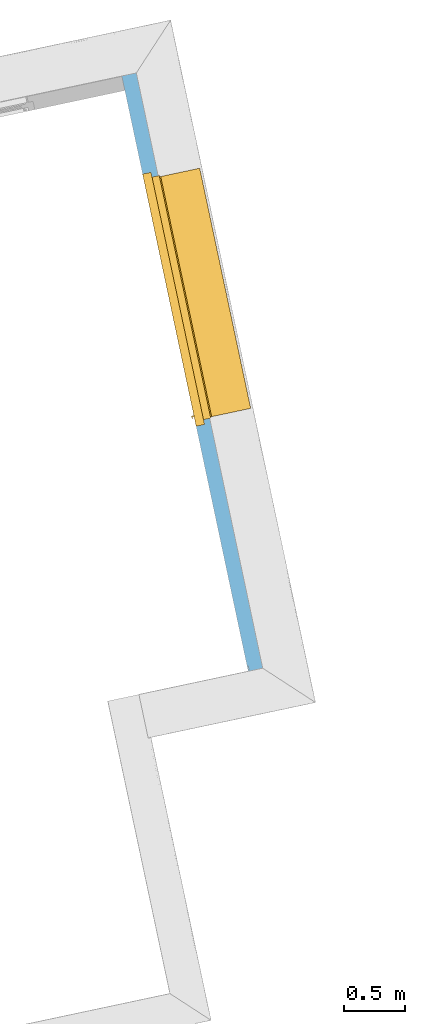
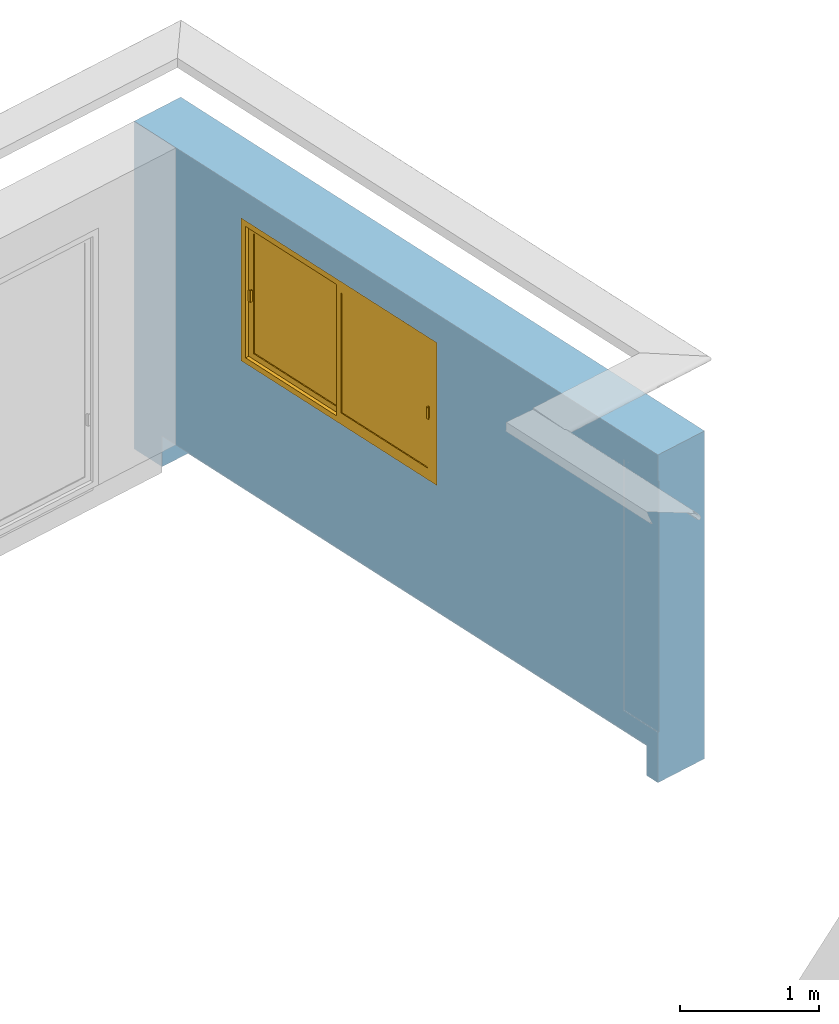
"""IFC2X3 building model written with IfcOpenShell, lengths in centimetres."""

from ifc_helpers import new_model, entity, si_unit, converted_unit, derived_unit, direction, frame, frame_2d, origin, place, context, subcontext, project, spatial, rectangle, extrude, faceted_brep, source, transform, mapped, material, material_list, layer, layer_set, layer_usage, type_object, type_shapes, element, fill, save


model = new_model("IFC2X3")

# Units and contexts
model_context = context("Model", 3, precision=0.001, world=origin(), true_north=direction((6.12303176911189e-17, 1.0)))
body_context = subcontext(model_context, "Body", "Model", "MODEL_VIEW")
ifc_project = project(units=[si_unit("LENGTHUNIT", "METRE", prefix="CENTI"), si_unit("AREAUNIT", "SQUARE_METRE"), si_unit("VOLUMEUNIT", "CUBIC_METRE"), converted_unit("PLANEANGLEUNIT", "DEGREE", entity("IfcRatioMeasure", 0.0174532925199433), si_unit("PLANEANGLEUNIT", "RADIAN"), dimensions=[0, 0, 0, 0, 0, 0, 0]), si_unit("MASSUNIT", "GRAM", prefix="KILO"), derived_unit("MASSDENSITYUNIT", [(si_unit("MASSUNIT", "GRAM", prefix="KILO"), 1), (si_unit("LENGTHUNIT", "METRE"), -3)]), derived_unit("IONCONCENTRATIONUNIT", [(si_unit("MASSUNIT", "GRAM", prefix="KILO"), 1), (si_unit("LENGTHUNIT", "METRE"), -3)]), derived_unit("MOMENTOFINERTIAUNIT", [(si_unit("LENGTHUNIT", "METRE"), 4)]), si_unit("TIMEUNIT", "SECOND"), si_unit("FREQUENCYUNIT", "HERTZ"), si_unit("THERMODYNAMICTEMPERATUREUNIT", "DEGREE_CELSIUS"), derived_unit("THERMALTRANSMITTANCEUNIT", [(si_unit("MASSUNIT", "GRAM", prefix="KILO"), 1), (si_unit("THERMODYNAMICTEMPERATUREUNIT", "KELVIN"), -1), (si_unit("TIMEUNIT", "SECOND"), -3)]), derived_unit("THERMALCONDUCTANCEUNIT", [(si_unit("MASSUNIT", "GRAM", prefix="KILO"), 1), (si_unit("THERMODYNAMICTEMPERATUREUNIT", "KELVIN"), -1), (si_unit("TIMEUNIT", "SECOND"), -3), (si_unit("LENGTHUNIT", "METRE"), 1)]), derived_unit("VOLUMETRICFLOWRATEUNIT", [(si_unit("LENGTHUNIT", "METRE"), 3), (si_unit("TIMEUNIT", "SECOND"), -1)]), derived_unit("MASSFLOWRATEUNIT", [(si_unit("MASSUNIT", "GRAM", prefix="KILO"), 1), (si_unit("TIMEUNIT", "SECOND"), -1)]), derived_unit("ROTATIONALFREQUENCYUNIT", [(si_unit("TIMEUNIT", "SECOND"), -1)]), si_unit("ELECTRICCURRENTUNIT", "AMPERE"), si_unit("ELECTRICVOLTAGEUNIT", "VOLT"), si_unit("POWERUNIT", "WATT"), si_unit("FORCEUNIT", "NEWTON", prefix="KILO"), si_unit("ILLUMINANCEUNIT", "LUX"), si_unit("LUMINOUSFLUXUNIT", "LUMEN"), si_unit("LUMINOUSINTENSITYUNIT", "CANDELA"), derived_unit("USERDEFINED", [(si_unit("MASSUNIT", "GRAM", prefix="KILO"), -1), (si_unit("LENGTHUNIT", "METRE"), -2), (si_unit("TIMEUNIT", "SECOND"), 3), (si_unit("LUMINOUSFLUXUNIT", "LUMEN"), 1)]), derived_unit("USERDEFINED", [(si_unit("MASSUNIT", "GRAM", prefix="KILO"), 1), (si_unit("TIMEUNIT", "SECOND"), -3), (si_unit("LENGTHUNIT", "METRE"), 3), (si_unit("ELECTRICCURRENTUNIT", "AMPERE"), -2)]), derived_unit("SOUNDPOWERUNIT", [(si_unit("MASSUNIT", "GRAM", prefix="KILO"), 1), (si_unit("TIMEUNIT", "SECOND"), -3), (si_unit("LENGTHUNIT", "METRE"), 2)]), derived_unit("SOUNDPRESSUREUNIT", [(si_unit("MASSUNIT", "GRAM", prefix="KILO"), 1), (si_unit("LENGTHUNIT", "METRE"), -1), (si_unit("TIMEUNIT", "SECOND"), -2)]), derived_unit("LINEARVELOCITYUNIT", [(si_unit("LENGTHUNIT", "METRE"), 1), (si_unit("TIMEUNIT", "SECOND"), -1)]), si_unit("PRESSUREUNIT", "PASCAL"), derived_unit("USERDEFINED", [(si_unit("MASSUNIT", "GRAM", prefix="KILO"), 1), (si_unit("LENGTHUNIT", "METRE"), -2), (si_unit("TIMEUNIT", "SECOND"), -2)]), derived_unit("LINEARFORCEUNIT", [(si_unit("MASSUNIT", "GRAM", prefix="KILO"), 1), (si_unit("TIMEUNIT", "SECOND"), -2)]), derived_unit("PLANARFORCEUNIT", [(si_unit("MASSUNIT", "GRAM", prefix="KILO"), 1), (si_unit("LENGTHUNIT", "METRE"), -1), (si_unit("TIMEUNIT", "SECOND"), -2)]), derived_unit("SPECIFICHEATCAPACITYUNIT", [(si_unit("THERMODYNAMICTEMPERATUREUNIT", "KELVIN"), -1), (si_unit("LENGTHUNIT", "METRE"), 2), (si_unit("TIMEUNIT", "SECOND"), -2)]), derived_unit("HEATINGVALUEUNIT", [(si_unit("LENGTHUNIT", "METRE"), 2), (si_unit("TIMEUNIT", "SECOND"), -2)]), derived_unit("VAPORPERMEABILITYUNIT", [(si_unit("LENGTHUNIT", "METRE"), -1), (si_unit("TIMEUNIT", "SECOND"), 1)]), derived_unit("DYNAMICVISCOSITYUNIT", [(si_unit("MASSUNIT", "GRAM", prefix="KILO"), 1), (si_unit("TIMEUNIT", "SECOND"), -1), (si_unit("LENGTHUNIT", "METRE"), -1)]), derived_unit("THERMALEXPANSIONCOEFFICIENTUNIT", [(si_unit("THERMODYNAMICTEMPERATUREUNIT", "KELVIN"), -1)]), derived_unit("MODULUSOFELASTICITYUNIT", [(si_unit("MASSUNIT", "GRAM", prefix="KILO"), 1), (si_unit("LENGTHUNIT", "METRE"), -1), (si_unit("TIMEUNIT", "SECOND"), -2)]), derived_unit("ISOTHERMALMOISTURECAPACITYUNIT", [(si_unit("LENGTHUNIT", "METRE"), 3), (si_unit("MASSUNIT", "GRAM", prefix="KILO"), -1)]), derived_unit("MOISTUREDIFFUSIVITYUNIT", [(si_unit("TIMEUNIT", "SECOND"), -1), (si_unit("LENGTHUNIT", "METRE"), 2)])], contexts=[model_context])

# Site, building, storey
site_placement = place(None, frame((14083.8920177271, -6853.25409548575, 6900.0), z_axis=(0.0, 0.0, 1.0), x_axis=(0.978188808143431, 0.207717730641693, 0.0)))
site = spatial("IfcSite", under=ifc_project, at=site_placement, Name="Surface", CompositionType="ELEMENT")
building_placement = place(site_placement, origin())
building = spatial("IfcBuilding", under=site, at=building_placement, CompositionType="ELEMENT")
storey_1_placement = place(building_placement, frame((0.0, 0.0, -17.0)))
storey_1 = spatial("IfcBuildingStorey", under=building, at=storey_1_placement, Name="Rez de chaussée (SD)", CompositionType="ELEMENT", Elevation=-16.9999999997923)

# Wall, openings
ifc_material_1 = material(Name="__ PIERRE______________________TEST")
ifc_layer_1 = layer(ifc_material_1, 10.0)
ifc_material_2 = material(Name="__ BETON_parpaings")
ifc_layer_2 = layer(ifc_material_2, 20.0)
ifc_material_3 = material(Name="__ ISOLANT (pat 1)")
ifc_layer_3 = layer(ifc_material_3, 13.0)
ifc_material_4 = material(Name="__ ENDUIT_Blanc")
ifc_layer_4 = layer(ifc_material_4, 2.0)
ifc_layer_set = layer_set([ifc_layer_1, ifc_layer_2, ifc_layer_3, ifc_layer_4], Name="Mur de base:*Mur (45) maçonné isolé + parement pierre")
ifc_layer_usage = layer_usage(ifc_layer_set, "AXIS2", "NEGATIVE", 22.5)
wall_type = type_object("IfcWallType", Name="Mur de base:*Mur (45) maçonné isolé + parement pierre", PredefinedType="STANDARD", material=ifc_layer_set)
wall_placement = place(storey_1_placement, frame((-5837.31321908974, 15722.1673447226, -10.0), z_axis=(0.0, 0.0, 1.0), x_axis=(0.0, -1.0, 0.0)))
wall = element("IfcWallStandardCase", 1, at=wall_placement, inside=storey_1, type_object=wall_type, material=ifc_layer_usage, Name="Mur de base:*Mur (45) maçonné isolé + parement pierre", ObjectType="Mur de base:*Mur (45) maçonné isolé + parement pierre", context=body_context, shape_type="SweptSolid", body=[
    extrude(rectangle(XDim=561.499999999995, YDim=45.0000000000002, at=frame_2d((280.749999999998, 7.99360577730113e-14), x_axis=(-1.0, 0.0))), origin(), (0.0, 0.0, 1.0), 286.999999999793),
])
opening_1_placement = place(storey_1_placement, frame((-5837.31321908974, 15722.1673447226, -10.0), z_axis=(0.0, 0.0, 1.0), x_axis=(0.0, -1.0, 0.0)))
element("IfcOpeningElement", 2, at=opening_1_placement, cuts=wall, Name="Mur de base:*Mur (45) maçonné isolé + parement pierre:1", ObjectType="Opening", context=body_context, shape_type="SweptSolid", body=[
    extrude(rectangle(XDim=27.0, YDim=24.9999999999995, at=frame_2d((0.0, 0.0), x_axis=(0.0, 1.0))), frame((549.499999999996, -10.0, 13.5), z_axis=(-1.0, 0.0, 0.0), x_axis=(0.0, 1.0, 0.0)), (0.0, 0.0, 1.0), 519.499999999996),
])
opening_2_placement = place(wall_placement, frame((564.0, -101.499999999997, 38.3850445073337)))
element("IfcOpeningElement", 3, at=opening_2_placement, cuts=wall, Name="Mur de base:*Mur (45) maçonné isolé + parement pierre", ObjectType="Opening", context=body_context, shape_type="Brep", body=[
    faceted_brep([(-39.5000000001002, 0.0, 225.614955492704), (-39.5000000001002, 80.0, 225.614955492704), (-39.5000000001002, 80.0, 5.61495549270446), (-39.5000000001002, 0.0, 5.61495549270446), (-2.50000000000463, 0.0, 225.614955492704), (-2.50000000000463, 0.0, 5.61495549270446), (-2.50000000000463, 79.8999999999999, 5.61495549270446), (-2.50000000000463, 80.0, 5.61495549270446), (-2.50000000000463, 80.0, 225.614955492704), (-34.2000000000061, 0.0, 225.614955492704), (-34.2000000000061, 0.0, 225.714955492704), (-34.3000000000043, 0.0, 225.714955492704), (-34.3000000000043, 0.0, 225.614955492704), (-33.0, 80.0, 5.61495549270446), (-33.0, 79.8999999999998, 5.61495549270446), (-34.3000000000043, 80.0, 225.614955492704), (-34.3000000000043, 80.0, 225.714955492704), (-34.2000000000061, 80.0, 225.714955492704), (-34.2000000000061, 80.0, 225.614955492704), (-14.3000000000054, 80.0, 225.614955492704), (-14.3000000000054, 80.0, 225.714955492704), (-14.2000000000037, 80.0, 225.714955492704), (-14.2000000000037, 80.0, 225.614955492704), (0.0, 80.0, 5.61495549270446), (0.0, 80.0, 0.0), (-30.502511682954, 80.0, 2.11559678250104), (-33.0, 80.0, 2.11559678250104), (-30.5025116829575, 79.8999999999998, 2.11559678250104), (0.0, 79.8999999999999, 0.0), (0.0, 79.8999999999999, 5.61495549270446), (-33.0, 79.8999999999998, 2.11559678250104), (-14.3000000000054, 79.8999999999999, 225.714955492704), (-14.3000000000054, 79.8999999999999, 225.614955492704), (-14.2000000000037, 79.8999999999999, 225.614955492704), (-14.2000000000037, 79.8999999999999, 225.714955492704)], [[[0, 1, 2, 3]], [[4, 5, 6, 7, 8]], [[0, 3, 5, 4, 9, 10, 11, 12]], [[3, 2, 13, 14, 6, 5]], [[2, 1, 15, 16, 17, 18, 19, 20, 21, 22, 8, 7, 23, 24, 25, 26, 13]], [[1, 0, 12, 15]], [[27, 28, 29, 6, 14, 30]], [[27, 30, 26, 25]], [[30, 14, 13, 26]], [[29, 23, 7, 6]], [[29, 28, 24, 23]], [[28, 27, 25, 24]], [[31, 32, 33, 34]], [[31, 34, 21, 20]], [[34, 33, 22, 21]], [[32, 31, 20, 19]], [[12, 11, 16, 15]], [[11, 10, 17, 16]], [[10, 9, 18, 17]], [[4, 8, 22, 33, 32, 19, 18, 9]]]),
])
opening_3_placement = place(wall_placement, frame((324.534892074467, -50.0, 129.036089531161), z_axis=(0.0, 0.0, 1.0), x_axis=(0.0, 1.0, 0.0)))
opening_3 = element("IfcOpeningElement", 4, at=opening_3_placement, cuts=wall, Name="Mur de base:*Mur (45) maçonné isolé + parement pierre", ObjectType="Opening", context=body_context, shape_type="Brep", body=[
    faceted_brep([(0.0, 205.0, 7.96391046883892), (0.0, 5.0, 7.96391046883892), (0.0, 5.0, 127.963910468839), (0.0, 205.0, 127.963910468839), (100.0, 205.0, 127.963910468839), (40.5000000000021, 205.0, 127.963910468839), (40.5000000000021, 5.0, 127.963910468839), (100.0, 5.0, 127.963910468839), (27.5000000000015, 205.0, 7.96391046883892), (27.5000000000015, 205.0, 127.963910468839), (27.5000000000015, 5.0, 127.963910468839), (27.5000000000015, 5.0, 7.96391046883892), (27.5000000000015, 0.0, 7.96391046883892), (27.5000000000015, 0.0, 132.96391046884), (27.5000000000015, 210.0, 132.96391046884), (27.5000000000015, 210.0, 7.96391046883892), (38.5000000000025, 205.0, 7.96391046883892), (40.5000000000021, 205.0, 7.96391046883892), (100.0, 205.0, 0.0), (38.5000000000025, 205.0, 6.46391046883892), (34.5000000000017, 210.0, 7.96391046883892), (34.5000000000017, 206.0, 7.96391046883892), (40.5000000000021, 206.0, 7.96391046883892), (38.5000000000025, 5.0, 7.96391046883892), (40.5000000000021, 5.0, 7.96391046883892), (40.5000000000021, 4.0, 7.96391046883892), (34.5000000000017, 4.0, 7.96391046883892), (34.5000000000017, 0.0, 7.96391046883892), (100.0, 5.0, 0.0), (38.5000000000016, 5.0, 6.46391046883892), (34.5000000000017, 210.0, 132.96391046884), (34.5000000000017, 0.0, 132.96391046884), (34.5000000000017, 4.0, 128.963910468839), (34.5000000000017, 206.0, 128.963910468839), (40.5000000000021, 206.0, 128.963910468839), (40.5000000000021, 4.0, 128.963910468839)], [[[0, 1, 2, 3]], [[4, 5, 6, 7]], [[8, 9, 10, 11, 12, 13, 14, 15]], [[16, 17, 5, 4, 18, 19]], [[1, 11, 10, 2]], [[0, 8, 15, 20, 21, 22, 17, 16, 23, 24, 25, 26, 27, 12, 11, 1]], [[4, 7, 28, 18]], [[18, 28, 29, 19]], [[19, 29, 23, 16]], [[15, 14, 30, 20]], [[20, 30, 31, 27, 26, 32, 33, 21]], [[21, 33, 34, 22]], [[22, 34, 35, 25, 24, 6, 5, 17]], [[14, 13, 31, 30]], [[32, 35, 34, 33]], [[31, 13, 12, 27]], [[26, 25, 35, 32]], [[7, 6, 24, 23, 29, 28]], [[3, 9, 8, 0]], [[2, 10, 9, 3]]]),
])

# Storey
storey_2_placement = place(building_placement, origin())
storey_2 = spatial("IfcBuildingStorey", under=building, at=storey_2_placement, Name="_Rez de chaussée Séjour", CompositionType="ELEMENT", Elevation=2.07727662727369e-10)

# Window
ifc_material_5 = material(Name="Fenêtre - Poignée")
ifc_material_6 = material(Name="Fenêtre - Appui")
ifc_material_7 = material(Name="Fenêtre - Vitrage")
ifc_material_8 = material(Name="__ METAL_gris foncé (menuiseries acier)______________________TEST")
ifc_material_9 = material(Name="Fenêtre - Cadre")
ifc_material_list = material_list([ifc_material_5, ifc_material_6, ifc_material_7, ifc_material_8, ifc_material_9])
window_style = type_object("IfcWindowStyle", Name="2 Vantaux coulissants - Droits:c 200x120 +VR", ConstructionType="NOTDEFINED", OperationType="DOUBLE_PANEL_VERTICAL", ParameterTakesPrecedence=False, Sizeable=False, material=ifc_material_list)
shared_shape = source(origin(), body_context, "Body", "Brep", [
    faceted_brep([(8.75313182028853, -71.4999999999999, 62.9639104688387), (7.09522174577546, -71.4999999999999, 62.9639104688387), (7.09522174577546, -71.0, 62.9639104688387), (8.0, -71.0, 62.9639104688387), (8.0, -69.4999999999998, 62.9639104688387), (9.0, -69.4999999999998, 62.9639104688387), (9.0, -71.2531318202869, 62.9639104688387), (8.0, -69.4999999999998, 72.9639104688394), (8.0, -71.0, 72.9639104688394), (7.09522174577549, -71.0, 72.9639104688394), (7.09522174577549, -71.4999999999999, 72.9639104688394), (8.75313182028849, -71.4999999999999, 72.9639104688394), (9.0, -71.2531318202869, 72.9639104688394), (9.0, -69.4999999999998, 72.9639104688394), (6.50000000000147, -71.0, 63.559132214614), (6.50000000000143, -71.0, 72.3686887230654), (6.67433641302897, -71.0, 72.7895740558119), (6.67433641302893, -71.0, 63.1382468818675), (6.50000000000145, -71.4999999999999, 72.3686887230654), (6.50000000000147, -71.4999999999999, 63.559132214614), (6.67433641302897, -71.4999999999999, 72.7895740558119), (6.67433641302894, -71.4999999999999, 63.1382468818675)], [[[0, 1, 2, 3, 4, 5, 6]], [[7, 8, 9, 10, 11, 12, 13]], [[12, 6, 5, 13]], [[13, 5, 4, 7]], [[7, 4, 3, 8]], [[14, 15, 16, 9, 8, 3, 2, 17]], [[18, 15, 14, 19]], [[1, 0, 11, 10, 20, 18, 19, 21]], [[11, 0, 6, 12]], [[9, 16, 20, 10]], [[15, 18, 20, 16]], [[14, 17, 21, 19]], [[2, 1, 21, 17]]]),
    faceted_brep([(202.0, -74.0, 62.9639104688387), (202.904778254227, -74.0, 62.9639104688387), (202.904778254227, -74.5000000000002, 62.9639104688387), (201.246868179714, -74.5000000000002, 62.9639104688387), (201.0, -74.2531318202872, 62.9639104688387), (201.0, -72.5000000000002, 62.9639104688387), (202.0, -72.5000000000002, 62.9639104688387), (201.0, -72.5000000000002, 72.9639104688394), (201.0, -74.2531318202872, 72.9639104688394), (201.246868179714, -74.5000000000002, 72.9639104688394), (202.904778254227, -74.5000000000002, 72.9639104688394), (202.904778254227, -74.0, 72.9639104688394), (202.0, -74.0, 72.9639104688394), (202.0, -72.5000000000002, 72.9639104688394), (203.325663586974, -74.0, 72.7895740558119), (203.500000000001, -74.0, 72.3686887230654), (203.500000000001, -74.0, 63.559132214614), (203.325663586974, -74.0, 63.1382468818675), (203.500000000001, -74.5000000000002, 63.559132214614), (203.500000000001, -74.5000000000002, 72.3686887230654), (203.325663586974, -74.5000000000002, 63.1382468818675), (203.325663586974, -74.5000000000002, 72.7895740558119)], [[[0, 1, 2, 3, 4, 5, 6]], [[7, 8, 9, 10, 11, 12, 13]], [[5, 4, 8, 7]], [[6, 5, 7, 13]], [[0, 6, 13, 12]], [[1, 0, 12, 11, 14, 15, 16, 17]], [[18, 16, 15, 19]], [[20, 18, 19, 21, 10, 9, 3, 2]], [[4, 3, 9, 8]], [[10, 21, 14, 11]], [[14, 21, 19, 15]], [[18, 20, 17, 16]], [[17, 20, 2, 1]]]),
    faceted_brep([(205.0, -26.0, 3.25823129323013), (205.0, -61.0, 6.93687952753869), (205.0, -61.0, 7.96391046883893), (205.0, -61.4999999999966, 7.96391046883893), (205.0, -61.4999999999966, 6.46391046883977), (205.0, -26.4999999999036, 2.78526223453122), (205.0, -26.4999999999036, 1.7552117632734), (205.0, -26.0, 1.70265964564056), (5.0, -26.0, 3.25823129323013), (5.0, -26.0, 1.70265964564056), (5.0, -26.4999999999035, 1.7552117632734), (5.0, -26.4999999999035, 2.78526223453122), (5.0, -61.4999999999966, 6.46391046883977), (5.0, -61.4999999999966, 7.96391046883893), (5.0, -61.0, 7.96391046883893), (5.0, -61.0, 6.93687952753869)], [[[0, 1, 2, 3, 4, 5, 6, 7]], [[8, 9, 10, 11, 12, 13, 14, 15]], [[1, 0, 8, 15]], [[2, 1, 15, 14]], [[3, 2, 14, 13]], [[4, 3, 13, 12]], [[5, 4, 12, 11]], [[6, 5, 11, 10]], [[7, 6, 10, 9]], [[0, 7, 9, 8]]]),
    faceted_brep([(5.0, -26.0, 3.40082381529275), (5.0, -26.0, 3.25823129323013), (5.0, -61.0, 6.93687952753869), (5.0, -61.0, 7.43963366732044), (5.0, -26.3581886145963, 3.79863257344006), (5.0, -26.1027420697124, 3.66847605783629), (5.50000000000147, -61.0, 7.43963366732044), (5.50000000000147, -61.0, 6.93687952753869), (5.50000000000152, -26.0, 3.25823129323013), (5.50000000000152, -26.0, 3.40082381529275), (5.50000000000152, -26.1027420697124, 3.66847605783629), (5.50000000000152, -26.3581886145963, 3.79863257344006)], [[[0, 1, 2, 3, 4, 5]], [[6, 7, 8, 9, 10, 11]], [[2, 1, 8, 7]], [[3, 2, 7, 6]], [[4, 3, 6, 11]], [[4, 11, 10, 5]], [[10, 9, 0, 5]], [[1, 0, 9, 8]]]),
    faceted_brep([(204.500000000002, -26.0, 3.40082381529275), (204.500000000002, -26.0, 3.25823129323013), (204.500000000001, -61.0, 6.93687952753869), (204.500000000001, -61.0, 7.43963366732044), (204.500000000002, -26.3581886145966, 3.79863257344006), (204.500000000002, -26.1027420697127, 3.66847605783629), (205.0, -61.0, 7.43963366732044), (205.0, -61.0, 6.93687952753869), (205.0, -26.0, 3.25823129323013), (205.0, -26.0, 3.40082381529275), (205.0, -26.1027420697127, 3.66847605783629), (205.0, -26.3581886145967, 3.79863257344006)], [[[0, 1, 2, 3, 4, 5]], [[6, 7, 8, 9, 10, 11]], [[2, 1, 8, 7]], [[3, 2, 7, 6]], [[4, 3, 6, 11]], [[4, 11, 10, 5]], [[10, 9, 0, 5]], [[1, 0, 9, 8]]]),
    faceted_brep([(102.500000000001, -67.4000000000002, 122.963910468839), (102.500000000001, -67.4000000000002, 17.963910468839), (10.0, -67.3999999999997, 17.963910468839), (10.0, -67.3999999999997, 122.963910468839), (102.500000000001, -68.6000000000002, 122.963910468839), (102.500000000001, -68.6000000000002, 17.963910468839), (10.0, -68.5999999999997, 17.963910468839), (10.0, -68.5999999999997, 122.963910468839)], [[[0, 1, 2, 3]], [[1, 0, 4, 5]], [[2, 1, 5, 6]], [[3, 2, 6, 7]], [[4, 7, 6, 5]], [[0, 3, 7, 4]]]),
    faceted_brep([(107.500000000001, -66.5000000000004, 127.963910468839), (107.500000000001, -69.5000000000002, 127.963910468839), (107.500000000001, -69.5000000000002, 12.9639104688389), (107.500000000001, -66.5000000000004, 12.9639104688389), (5.0, -69.4999999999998, 12.9639104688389), (5.0, -66.5, 12.9639104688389), (5.0, -69.4999999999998, 127.963910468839), (10.0, -69.4999999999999, 17.963910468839), (10.0, -69.4999999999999, 122.963910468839), (102.500000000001, -69.5000000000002, 122.963910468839), (102.500000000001, -69.5000000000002, 17.963910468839), (5.0, -66.5, 127.963910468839), (102.500000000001, -66.5000000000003, 17.963910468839), (102.500000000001, -66.5000000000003, 122.963910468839), (10.0, -66.5, 122.963910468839), (10.0, -66.5, 17.963910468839)], [[[0, 1, 2, 3]], [[3, 2, 4, 5]], [[2, 1, 6, 4], [7, 8, 9, 10]], [[5, 4, 6, 11]], [[5, 11, 0, 3], [12, 13, 14, 15]], [[9, 13, 12, 10]], [[10, 12, 15, 7]], [[7, 15, 14, 8]], [[11, 6, 1, 0]], [[8, 14, 13, 9]]]),
    faceted_brep([(107.500000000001, -70.4000000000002, 17.9639104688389), (107.500000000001, -70.4000000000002, 122.963910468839), (200.0, -70.4000000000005, 122.963910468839), (200.0, -70.4000000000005, 17.9639104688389), (107.500000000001, -71.6000000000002, 17.9639104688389), (107.500000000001, -71.6000000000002, 122.963910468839), (200.0, -71.6000000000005, 122.963910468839), (200.0, -71.6000000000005, 17.9639104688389)], [[[0, 1, 2, 3]], [[1, 0, 4, 5]], [[3, 2, 6, 7]], [[0, 3, 7, 4]], [[4, 7, 6, 5]], [[2, 1, 5, 6]]]),
    faceted_brep([(107.500000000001, -69.5, 122.963910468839), (107.500000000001, -72.4999999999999, 122.963910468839), (107.500000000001, -72.4999999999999, 17.9639104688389), (107.500000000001, -69.5, 17.9639104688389), (200.0, -72.5000000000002, 17.9639104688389), (200.0, -69.5000000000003, 17.9639104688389), (200.0, -72.5000000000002, 122.963910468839), (205.0, -72.5000000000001, 12.9639104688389), (205.0, -72.5000000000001, 127.963910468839), (102.500000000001, -72.4999999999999, 127.963910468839), (102.500000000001, -72.4999999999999, 12.9639104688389), (200.0, -69.5000000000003, 122.963910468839), (102.500000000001, -69.5, 12.9639104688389), (102.500000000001, -69.5, 127.963910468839), (205.0, -69.5000000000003, 127.963910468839), (205.0, -69.5000000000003, 12.9639104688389)], [[[0, 1, 2, 3]], [[3, 2, 4, 5]], [[2, 1, 6, 4], [7, 8, 9, 10]], [[5, 4, 6, 11]], [[5, 11, 0, 3], [12, 13, 14, 15]], [[9, 13, 12, 10]], [[10, 12, 15, 7]], [[7, 15, 14, 8]], [[11, 6, 1, 0]], [[8, 14, 13, 9]]], outer=[[True], [True], [False, True], [True], [False, True], [True], [True], [True], [True], [True]]),
    faceted_brep([(0.0, -72.5000000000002, 7.96391046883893), (0.0, -65.5000000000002, 7.96391046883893), (5.0, -65.5000000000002, 7.96391046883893), (5.0, -59.4999999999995, 7.96391046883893), (205.0, -59.4999999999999, 7.96391046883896), (205.0, -65.5000000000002, 7.96391046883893), (210.0, -65.5000000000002, 7.96391046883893), (210.0, -72.5000000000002, 7.96391046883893), (0.0, -72.5000000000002, 132.96391046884), (0.0, -65.5000000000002, 132.96391046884), (210.0, -65.5000000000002, 132.96391046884), (205.0, -65.5000000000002, 12.7053722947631), (5.0, -65.5000000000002, 12.7053722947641), (6.50000000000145, -65.5000000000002, 126.463910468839), (6.50000000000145, -65.5000000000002, 14.4639104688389), (203.500000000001, -65.5000000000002, 14.4639104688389), (203.500000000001, -65.5000000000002, 126.463910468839), (5.0, -58.4999999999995, 10.8297279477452), (5.0, -58.4999999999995, 7.46391046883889), (5.0, -59.4999999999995, 7.46391046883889), (205.0, -59.4999999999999, 7.46391046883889), (205.0, -58.4999999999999, 7.46391046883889), (205.0, -58.4999999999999, 10.8297279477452), (210.0, -72.5000000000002, 132.96391046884), (205.0, -72.5000000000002, 127.963910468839), (205.0, -72.5000000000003, 12.9639104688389), (5.0, -72.5000000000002, 12.9639104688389), (5.0, -72.5000000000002, 127.963910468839), (6.50000000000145, -66.5000000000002, 126.463910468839), (6.50000000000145, -66.5000000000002, 14.4639104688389), (203.500000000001, -66.5000000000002, 14.4639104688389), (203.500000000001, -66.5000000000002, 126.463910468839), (205.0, -66.5000000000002, 127.963910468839), (5.0, -66.5000000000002, 127.963910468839), (5.0, -66.5000000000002, 12.9639104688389), (205.0, -66.5000000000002, 12.9639104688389)], [[[0, 1, 2, 3, 4, 5, 6, 7]], [[1, 0, 8, 9]], [[1, 9, 10, 6, 5, 11, 12, 2], [13, 14, 15, 16]], [[12, 17, 18, 19, 3, 2]], [[3, 19, 20, 4]], [[4, 20, 21, 22, 11, 5]], [[6, 10, 23, 7]], [[0, 7, 23, 8], [24, 25, 26, 27]], [[13, 28, 29, 14]], [[29, 30, 15, 14]], [[31, 16, 15, 30]], [[17, 12, 11, 22]], [[28, 31, 30, 29], [32, 33, 34, 35]], [[34, 33, 27, 26]], [[26, 25, 35, 34]], [[24, 32, 35, 25]], [[18, 17, 22, 21]], [[19, 18, 21, 20]], [[13, 16, 31, 28]], [[10, 9, 8, 23]], [[33, 32, 24, 27]]], outer=[[True], [True], [True, False], [True], [True], [True], [True], [True, False], [True], [True], [True], [True], [False, True], [True], [True], [True], [True], [True], [True], [True], [True]]),
    faceted_brep([(5.0, -59.4999999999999, 7.96391046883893), (5.0, -65.5000000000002, 7.96391046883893), (4.0, -65.5000000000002, 7.96391046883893), (4.0, -59.4999999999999, 7.96391046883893), (5.0, -59.4999999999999, 127.963910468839), (5.0, -65.5000000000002, 127.963910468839), (205.0, -65.5000000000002, 127.963910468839), (205.0, -65.5000000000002, 7.96391046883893), (206.0, -65.5000000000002, 7.96391046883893), (206.0, -65.5000000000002, 128.963910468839), (4.0, -65.5000000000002, 128.963910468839), (4.0, -59.4999999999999, 128.963910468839), (206.0, -59.4999999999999, 128.963910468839), (206.0, -59.4999999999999, 7.96391046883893), (205.0, -59.4999999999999, 7.96391046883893), (205.0, -59.4999999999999, 127.963910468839)], [[[0, 1, 2, 3]], [[1, 0, 4, 5]], [[2, 1, 5, 6, 7, 8, 9, 10]], [[3, 2, 10, 11]], [[0, 3, 11, 12, 13, 14, 15, 4]], [[6, 15, 14, 7]], [[14, 13, 8, 7]], [[12, 9, 8, 13]], [[5, 4, 15, 6]], [[11, 10, 9, 12]]]),
])
type_shapes(window_style, [shared_shape])
window_placement = place(opening_3_placement, frame((100.0, 210.0, 0.0), z_axis=(0.0, 0.0, 1.0), x_axis=(0.0, -1.0, 0.0)))
window = element("IfcWindow", 5, at=window_placement, inside=storey_2, type_object=window_style, material=ifc_material_list, Name="2 Vantaux coulissants - Droits:c 200x120 +VR", ObjectType="2 Vantaux coulissants - Droits:c 200x120 +VR", OverallHeight=133.000000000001, OverallWidth=210.000000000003, context=body_context, shape_type="MappedRepresentation", body=[
    mapped(shared_shape, transform((0.0, 0.0, 0.0), scale=1.0)),
])

fill(opening_3, window)

save(model, "model.ifc")
